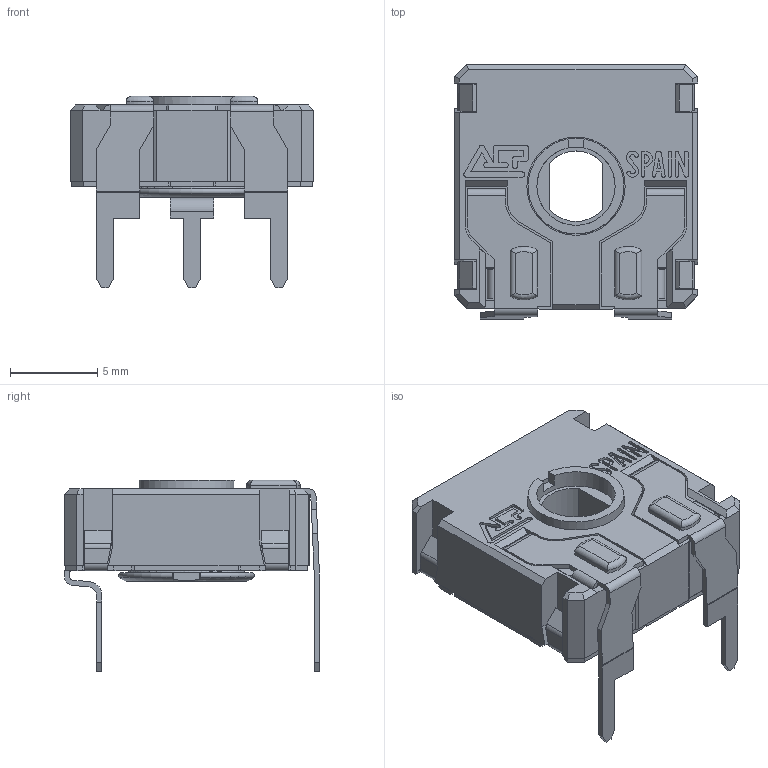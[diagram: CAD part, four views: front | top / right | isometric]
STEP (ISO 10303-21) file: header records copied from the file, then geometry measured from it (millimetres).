
FILE_DESCRIPTION(/* description */ (''),/* implementation_level */ '2;1');
FILE_NAME(/* name */ 'C:\Users\CEM\Desktop\ENVIAR\TRANSICION 3D CATALOGOS\CS14ZV12,5.stp',/* time_stamp */ '2025-10-24T17:52:03+02:00',/* author */ ('CEM'),/* organization */ (''),/* preprocessor_version */ 'ST-DEVELOPER v17',/* originating_system */ 'Autodesk Inventor 2018',/* authorisation */ '');
FILE_SCHEMA (('AUTOMOTIVE_DESIGN { 1 0 10303 214 3 1 1 }'));
Length unit declared in the file: millimetre
Products named in the file (1): CS14ZV12,5
Bounding box: 14 x 14.65 x 11 mm (x, y, z)
Volume: 553 mm3; surface area: 1618.7 mm2
Topology: 1 solids, 3 shells, 720 faces, 2028 edges, 1309 vertices
Faces by surface type: plane 546, cylinder 140, cone 15, bspline 10, torus 9
Full cylindrical faces by diameter (mm): 4.5 x1, 5.5 x1, 5.65 x1, 6.87 x1
Entity records: 24092 total; most frequent: CARTESIAN_POINT 4485, ORIENTED_EDGE 4056, DIRECTION 3772, EDGE_CURVE 2028, LINE 1596, VECTOR 1596, VERTEX_POINT 1309, AXIS2_PLACEMENT_3D 1088
